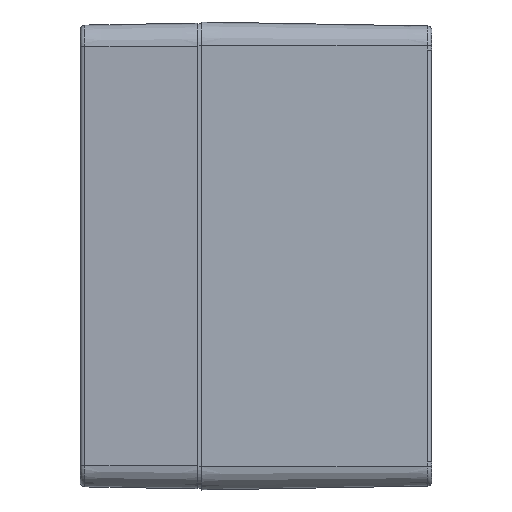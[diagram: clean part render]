
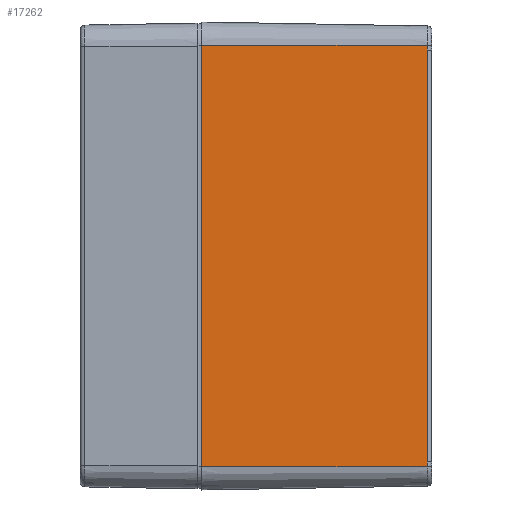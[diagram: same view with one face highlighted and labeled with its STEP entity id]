
A CAD part, left-side view. The second image highlights one B-rep face of the part: STEP entity #17262.
In plain terms, the highlighted planar face has unit normal (-1, -0.018, 0).
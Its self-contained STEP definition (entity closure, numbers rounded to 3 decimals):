
#559 = CARTESIAN_POINT ( 'NONE',  ( -98.972, -58.885, -53.646 ) ) ;
#1093 = CARTESIAN_POINT ( 'NONE',  ( -98.972, -58.884, -54.05 ) ) ;
#1414 = AXIS2_PLACEMENT_3D ( 'NONE', #38105, #4290, #8016 ) ;
#1745 = CARTESIAN_POINT ( 'NONE',  ( -100., 0., -54.05 ) ) ;
#2056 = VERTEX_POINT ( 'NONE', #43389 ) ;
#3048 = ORIENTED_EDGE ( 'NONE', *, *, #41702, .T. ) ;
#4290 = DIRECTION ( 'NONE',  ( -1., -0.017, 0. ) ) ;
#4902 = DIRECTION ( 'NONE',  ( 0., 0., 1. ) ) ;
#4949 = EDGE_LOOP ( 'NONE', ( #3048, #11311, #42268, #28030, #7432, #25927 ) ) ;
#5952 = VECTOR ( 'NONE', #4902, 1000. ) ;
#7432 = ORIENTED_EDGE ( 'NONE', *, *, #36631, .T. ) ;
#7764 = CARTESIAN_POINT ( 'NONE',  ( -98.972, -58.872, -52.837 ) ) ;
#8016 = DIRECTION ( 'NONE',  ( 0.017, -1., 0. ) ) ;
#8776 = LINE ( 'NONE', #22664, #27272 ) ;
#11311 = ORIENTED_EDGE ( 'NONE', *, *, #34672, .T. ) ;
#12912 = LINE ( 'NONE', #1745, #43281 ) ;
#14664 = VERTEX_POINT ( 'NONE', #1093 ) ;
#14701 = FACE_OUTER_BOUND ( 'NONE', #4949, .T. ) ;
#17015 = CARTESIAN_POINT ( 'NONE',  ( -98.972, -58.872, -52.837 ) ) ;
#17262 = ADVANCED_FACE ( 'NONE', ( #14701 ), #26799, .T. ) ;
#17304 = EDGE_CURVE ( 'NONE', #14664, #27749, #42678, .T. ) ;
#17402 = CARTESIAN_POINT ( 'NONE',  ( -98.972, -58.872, 52.837 ) ) ;
#18635 = CARTESIAN_POINT ( 'NONE',  ( -98.972, -58.884, -54.05 ) ) ;
#20343 = CARTESIAN_POINT ( 'NONE',  ( -98.972, -58.872, 53.241 ) ) ;
#22664 = CARTESIAN_POINT ( 'NONE',  ( -100., 0., 54.05 ) ) ;
#23843 = DIRECTION ( 'NONE',  ( -0.017, 1., 0. ) ) ;
#23928 = VECTOR ( 'NONE', #44041, 1000. ) ;
#25927 = ORIENTED_EDGE ( 'NONE', *, *, #38387, .T. ) ;
#26531 = CARTESIAN_POINT ( 'NONE',  ( -98.972, -58.872, -53.241 ) ) ;
#26799 = PLANE ( 'NONE',  #1414 ) ;
#27134 = LINE ( 'NONE', #46105, #5952 ) ;
#27144 = VERTEX_POINT ( 'NONE', #38293 ) ;
#27272 = VECTOR ( 'NONE', #23843, 1000. ) ;
#27749 = VERTEX_POINT ( 'NONE', #17015 ) ;
#27762 = CARTESIAN_POINT ( 'NONE',  ( -98.972, -58.885, 53.646 ) ) ;
#28030 = ORIENTED_EDGE ( 'NONE', *, *, #17304, .T. ) ;
#28992 = CARTESIAN_POINT ( 'NONE',  ( -99.983, -1., 54.05 ) ) ;
#29452 = VERTEX_POINT ( 'NONE', #17402 ) ;
#29516 = B_SPLINE_CURVE_WITH_KNOTS ( 'NONE', 3,
 ( #39579, #20343, #27762, #39346 ),
 .UNSPECIFIED., .F., .F.,
 ( 4, 4 ),
 ( 0., 0.001 ),
 .UNSPECIFIED. ) ;
#29883 = EDGE_CURVE ( 'NONE', #14664, #2056, #12912, .T. ) ;
#33375 = CARTESIAN_POINT ( 'NONE',  ( -99.983, -1., 54.05 ) ) ;
#34672 = EDGE_CURVE ( 'NONE', #48211, #2056, #47736, .T. ) ;
#36631 = EDGE_CURVE ( 'NONE', #27749, #29452, #27134, .T. ) ;
#38105 = CARTESIAN_POINT ( 'NONE',  ( -100., 0., 54.05 ) ) ;
#38293 = CARTESIAN_POINT ( 'NONE',  ( -98.972, -58.884, 54.05 ) ) ;
#38387 = EDGE_CURVE ( 'NONE', #29452, #27144, #29516, .T. ) ;
#39346 = CARTESIAN_POINT ( 'NONE',  ( -98.972, -58.884, 54.05 ) ) ;
#39579 = CARTESIAN_POINT ( 'NONE',  ( -98.972, -58.872, 52.837 ) ) ;
#41702 = EDGE_CURVE ( 'NONE', #27144, #48211, #8776, .T. ) ;
#42268 = ORIENTED_EDGE ( 'NONE', *, *, #29883, .F. ) ;
#42678 = B_SPLINE_CURVE_WITH_KNOTS ( 'NONE', 3,
 ( #18635, #559, #26531, #7764 ),
 .UNSPECIFIED., .F., .F.,
 ( 4, 4 ),
 ( 0., 0.001 ),
 .UNSPECIFIED. ) ;
#43281 = VECTOR ( 'NONE', #47649, 1000. ) ;
#43389 = CARTESIAN_POINT ( 'NONE',  ( -99.983, -1., -54.05 ) ) ;
#44041 = DIRECTION ( 'NONE',  ( 0., 0., -1. ) ) ;
#46105 = CARTESIAN_POINT ( 'NONE',  ( -98.972, -58.872, 54.05 ) ) ;
#47649 = DIRECTION ( 'NONE',  ( -0.017, 1., 0. ) ) ;
#47736 = LINE ( 'NONE', #28992, #23928 ) ;
#48211 = VERTEX_POINT ( 'NONE', #33375 ) ;
